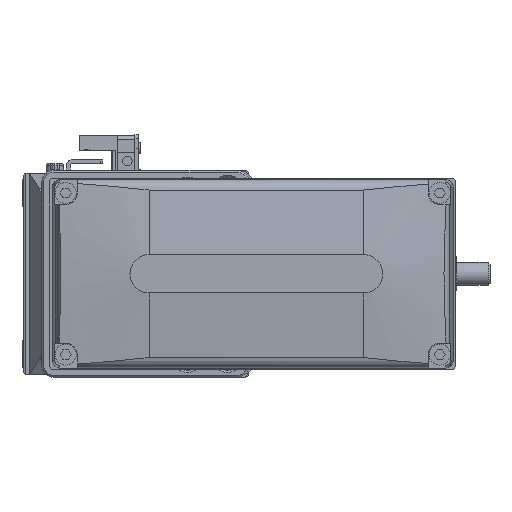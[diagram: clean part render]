
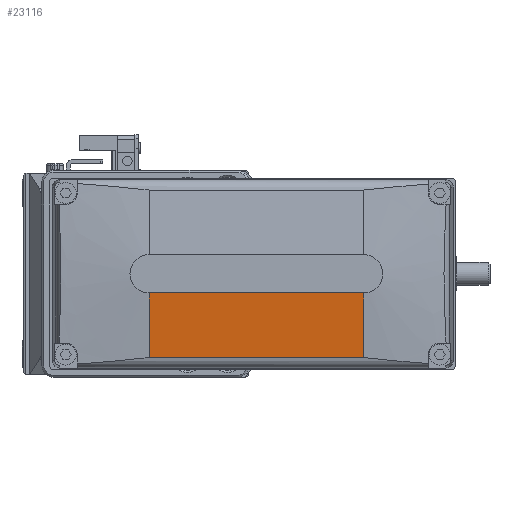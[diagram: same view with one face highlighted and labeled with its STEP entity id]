
A CAD part, left-side view. The second image highlights one B-rep face of the part: STEP entity #23116.
In plain terms, the highlighted planar face has unit normal (-0.996, 0, -0.087).
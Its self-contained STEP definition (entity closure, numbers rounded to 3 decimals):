
#1456 = DIRECTION ( 'NONE',  ( -0.996, 0., -0.087 ) ) ;
#1537 = AXIS2_PLACEMENT_3D ( 'NONE', #4660, #1456, #18863 ) ;
#3243 = ORIENTED_EDGE ( 'NONE', *, *, #20374, .F. ) ;
#4319 = DIRECTION ( 'NONE',  ( 0., 1., 0. ) ) ;
#4660 = CARTESIAN_POINT ( 'NONE',  ( -50., 128., -5. ) ) ;
#5163 = CARTESIAN_POINT ( 'NONE',  ( 43606.406, 28., -499000. ) ) ;
#5488 = VECTOR ( 'NONE', #10509, 1000. ) ;
#7309 = LINE ( 'NONE', #5163, #5488 ) ;
#8093 = VECTOR ( 'NONE', #19340, 1000. ) ;
#9048 = CARTESIAN_POINT ( 'NONE',  ( -50., -28., -5. ) ) ;
#9077 = CARTESIAN_POINT ( 'NONE',  ( -50., 28., -5. ) ) ;
#10509 = DIRECTION ( 'NONE',  ( -0.087, 0., 0.996 ) ) ;
#11256 = LINE ( 'NONE', #15959, #25480 ) ;
#13278 = FACE_OUTER_BOUND ( 'NONE', #32043, .T. ) ;
#14118 = EDGE_CURVE ( 'NONE', #37661, #23624, #37439, .T. ) ;
#15959 = CARTESIAN_POINT ( 'NONE',  ( -50., 128., -5. ) ) ;
#17121 = CARTESIAN_POINT ( 'NONE',  ( -48.525, 28., -21.861 ) ) ;
#17866 = ORIENTED_EDGE ( 'NONE', *, *, #14118, .F. ) ;
#18863 = DIRECTION ( 'NONE',  ( -0.087, 0., 0.996 ) ) ;
#19340 = DIRECTION ( 'NONE',  ( 0., 1., 0. ) ) ;
#20374 = EDGE_CURVE ( 'NONE', #27755, #37661, #23593, .T. ) ;
#23116 = ADVANCED_FACE ( 'NONE', ( #13278 ), #27709, .T. ) ;
#23209 = EDGE_CURVE ( 'NONE', #23624, #31339, #7309, .T. ) ;
#23593 = LINE ( 'NONE', #24495, #30977 ) ;
#23624 = VERTEX_POINT ( 'NONE', #17121 ) ;
#24495 = CARTESIAN_POINT ( 'NONE',  ( 43606.406, -28., -499000. ) ) ;
#24696 = CARTESIAN_POINT ( 'NONE',  ( -48.525, 128., -21.861 ) ) ;
#25480 = VECTOR ( 'NONE', #4319, 1000. ) ;
#26515 = EDGE_CURVE ( 'NONE', #27755, #31339, #11256, .T. ) ;
#27709 = PLANE ( 'NONE',  #1537 ) ;
#27755 = VERTEX_POINT ( 'NONE', #9048 ) ;
#28601 = DIRECTION ( 'NONE',  ( 0.087, 0., -0.996 ) ) ;
#29830 = ORIENTED_EDGE ( 'NONE', *, *, #26515, .T. ) ;
#30977 = VECTOR ( 'NONE', #28601, 1000. ) ;
#31339 = VERTEX_POINT ( 'NONE', #9077 ) ;
#32043 = EDGE_LOOP ( 'NONE', ( #35574, #17866, #3243, #29830 ) ) ;
#35574 = ORIENTED_EDGE ( 'NONE', *, *, #23209, .F. ) ;
#35730 = CARTESIAN_POINT ( 'NONE',  ( -48.525, -28., -21.861 ) ) ;
#37439 = LINE ( 'NONE', #24696, #8093 ) ;
#37661 = VERTEX_POINT ( 'NONE', #35730 ) ;
